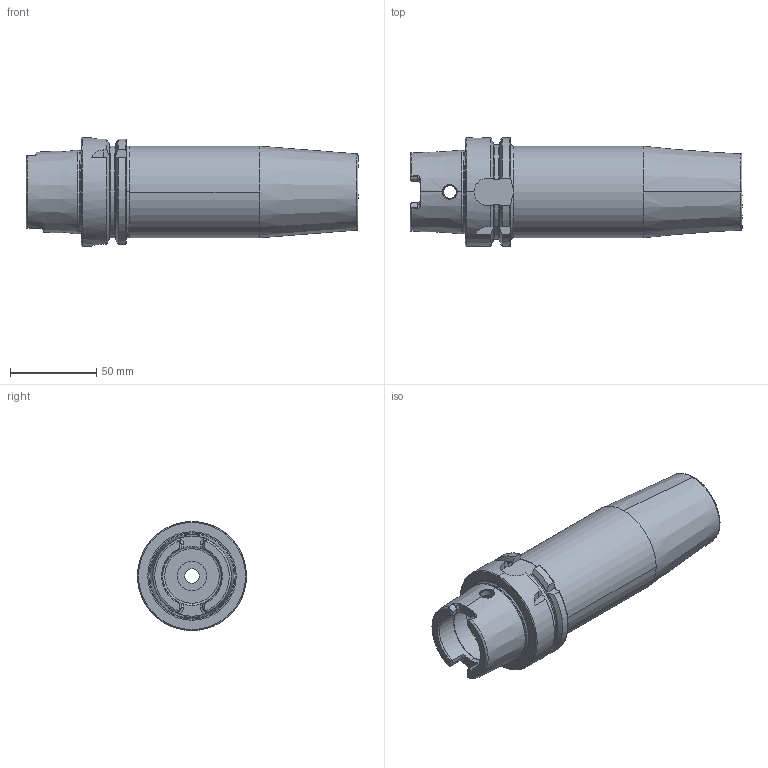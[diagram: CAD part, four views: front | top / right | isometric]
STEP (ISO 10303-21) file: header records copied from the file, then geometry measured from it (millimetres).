
FILE_DESCRIPTION (( 'STEP AP214' ), '1' );
FILE_NAME ('04-0493.STEP', '2021-08-03T19:25:13', ( '' ), ( '' ), 'SwSTEP 2.0', 'SolidWorks 2020', '' );
FILE_SCHEMA (( 'AUTOMOTIVE_DESIGN' ));
Length unit declared in the file: inch
Products named in the file (1): 04-0493
Bounding box: 192 x 63 x 63 mm (x, y, z)
Volume: 319321.1 mm3; surface area: 50136.2 mm2
Topology: 1 solids, 1 shells, 157 faces, 419 edges, 265 vertices
Faces by surface type: cylinder 49, bspline 43, plane 43, cone 22
Entity records: 8560 total; most frequent: CARTESIAN_POINT 4934, ORIENTED_EDGE 838, DIRECTION 658, EDGE_CURVE 419, AXIS2_PLACEMENT_3D 266, VERTEX_POINT 265, EDGE_LOOP 164, FACE_OUTER_BOUND 157
